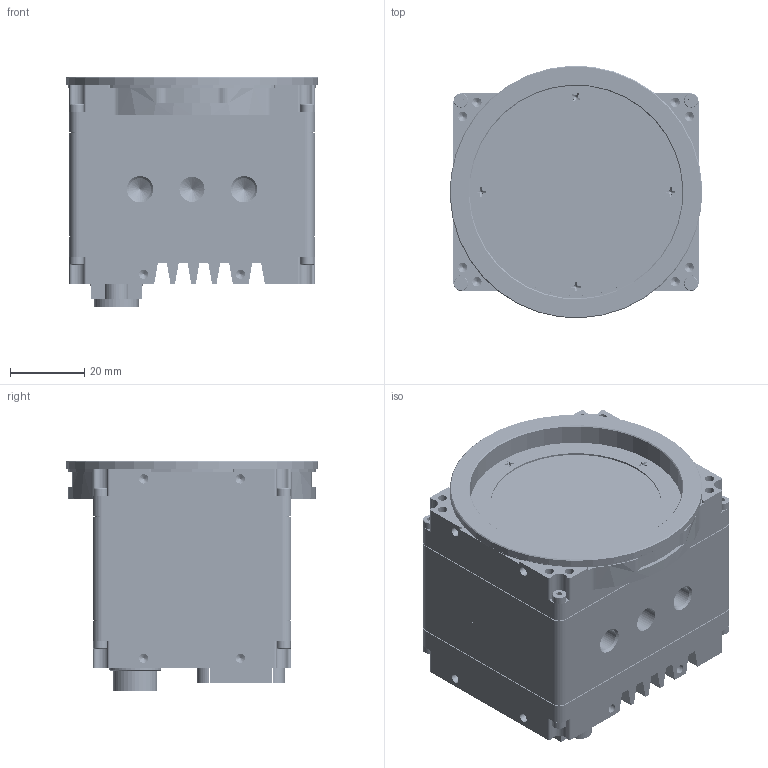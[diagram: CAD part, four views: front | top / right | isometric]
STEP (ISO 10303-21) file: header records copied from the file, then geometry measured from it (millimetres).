
FILE_DESCRIPTION (( 'STEP AP203' ), '1' );
FILE_NAME ('GT LF IMX M58-MOUNT COLOR CAMERA.STEP', '2019-11-07T22:48:05', ( '' ), ( '' ), 'SwSTEP 2.0', 'SolidWorks 2018', '' );
FILE_SCHEMA (( 'CONFIG_CONTROL_DESIGN' ));
Products named in the file (1): GT LF IMX M58-MOUNT COLOR CAMERA
Bounding box: 67.93 x 67.93 x 61.93 mm (x, y, z)
Volume: 90645.1 mm3; surface area: 84769.3 mm2
Topology: 348 solids, 348 shells, 23254 faces, 57659 edges, 38012 vertices
Faces by surface type: plane 16499, cylinder 4904, torus 1000, bspline 458, cone 235, sphere 158
Entity records: 706328 total; most frequent: CARTESIAN_POINT 147240, ORIENTED_EDGE 114526, DIRECTION 113639, EDGE_CURVE 57263, VECTOR 43433, LINE 43433, VERTEX_POINT 37844, AXIS2_PLACEMENT_3D 35103
